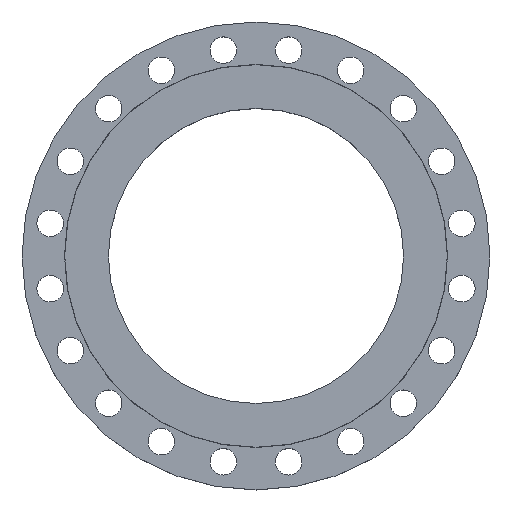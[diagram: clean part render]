
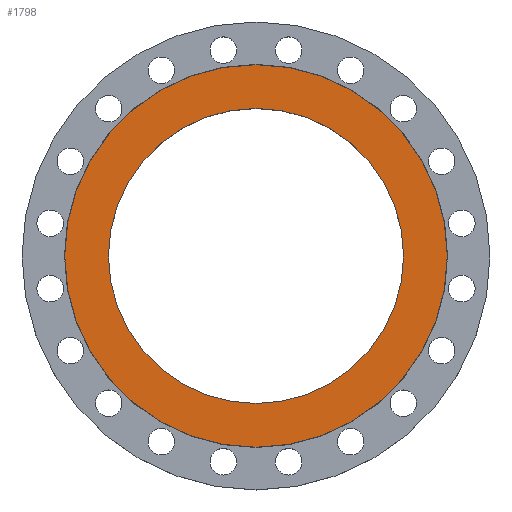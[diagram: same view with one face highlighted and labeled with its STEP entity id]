
A CAD part, top view. The second image highlights one B-rep face of the part: STEP entity #1798.
In plain terms, the highlighted planar face has unit normal (0, 0, 1).
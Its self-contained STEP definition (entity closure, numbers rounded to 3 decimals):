
#2 = VERTEX_POINT ( 'NONE', #1876 ) ;
#6 = AXIS2_PLACEMENT_3D ( 'NONE', #86, #818, #1408 ) ;
#14 = ORIENTED_EDGE ( 'NONE', *, *, #54, .F. ) ;
#16 = ORIENTED_EDGE ( 'NONE', *, *, #1433, .F. ) ;
#17 = ORIENTED_EDGE ( 'NONE', *, *, #1182, .T. ) ;
#19 = ORIENTED_EDGE ( 'NONE', *, *, #1229, .T. ) ;
#35 = VERTEX_POINT ( 'NONE', #210 ) ;
#45 = CIRCLE ( 'NONE', #6, 216. ) ;
#54 = EDGE_CURVE ( 'NONE', #2, #35, #1249, .T. ) ;
#86 = CARTESIAN_POINT ( 'NONE',  ( 0., 0., 0. ) ) ;
#210 = CARTESIAN_POINT ( 'NONE',  ( -280., 0., 0. ) ) ;
#221 = DIRECTION ( 'NONE',  ( -1., 0., 0. ) ) ;
#304 = AXIS2_PLACEMENT_3D ( 'NONE', #490, #1022, #1552 ) ;
#445 = DIRECTION ( 'NONE',  ( 0., 0., 1. ) ) ;
#490 = CARTESIAN_POINT ( 'NONE',  ( 0., 0., 0. ) ) ;
#574 = VERTEX_POINT ( 'NONE', #749 ) ;
#620 = FACE_OUTER_BOUND ( 'NONE', #762, .T. ) ;
#741 = CARTESIAN_POINT ( 'NONE',  ( 0., 0., 0. ) ) ;
#749 = CARTESIAN_POINT ( 'NONE',  ( 216., 0., 0. ) ) ;
#756 = CARTESIAN_POINT ( 'NONE',  ( -216., 0., 0. ) ) ;
#762 = EDGE_LOOP ( 'NONE', ( #16, #14 ) ) ;
#818 = DIRECTION ( 'NONE',  ( 0., 0., -1. ) ) ;
#834 = AXIS2_PLACEMENT_3D ( 'NONE', #741, #1351, #1886 ) ;
#1022 = DIRECTION ( 'NONE',  ( 0., 0., -1. ) ) ;
#1042 = CIRCLE ( 'NONE', #1813, 280. ) ;
#1044 = VERTEX_POINT ( 'NONE', #756 ) ;
#1078 = CARTESIAN_POINT ( 'NONE',  ( 0., 0., 0. ) ) ;
#1120 = DIRECTION ( 'NONE',  ( 1., 0., 0. ) ) ;
#1129 = EDGE_LOOP ( 'NONE', ( #19, #17 ) ) ;
#1182 = EDGE_CURVE ( 'NONE', #574, #1044, #45, .T. ) ;
#1229 = EDGE_CURVE ( 'NONE', #1044, #574, #1910, .T. ) ;
#1249 = CIRCLE ( 'NONE', #834, 280. ) ;
#1262 = PLANE ( 'NONE',  #1808 ) ;
#1351 = DIRECTION ( 'NONE',  ( 0., 0., -1. ) ) ;
#1408 = DIRECTION ( 'NONE',  ( -1., 0., 0. ) ) ;
#1433 = EDGE_CURVE ( 'NONE', #35, #2, #1042, .T. ) ;
#1552 = DIRECTION ( 'NONE',  ( -1., 0., 0. ) ) ;
#1621 = DIRECTION ( 'NONE',  ( 0., 0., -1. ) ) ;
#1797 = CARTESIAN_POINT ( 'NONE',  ( 0., 0., 0. ) ) ;
#1798 = ADVANCED_FACE ( 'NONE', ( #1926, #620 ), #1262, .T. ) ;
#1808 = AXIS2_PLACEMENT_3D ( 'NONE', #1797, #445, #1120 ) ;
#1813 = AXIS2_PLACEMENT_3D ( 'NONE', #1078, #1621, #221 ) ;
#1876 = CARTESIAN_POINT ( 'NONE',  ( 280., 0., 0. ) ) ;
#1886 = DIRECTION ( 'NONE',  ( -1., 0., 0. ) ) ;
#1910 = CIRCLE ( 'NONE', #304, 216. ) ;
#1926 = FACE_BOUND ( 'NONE', #1129, .T. ) ;
